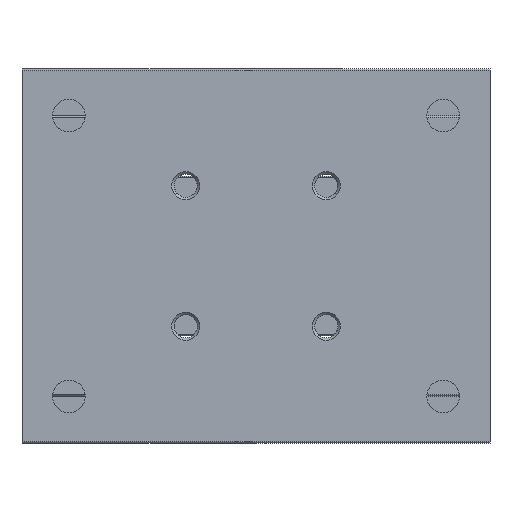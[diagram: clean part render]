
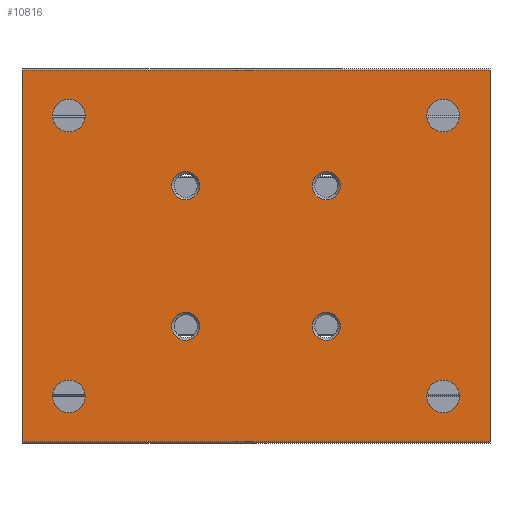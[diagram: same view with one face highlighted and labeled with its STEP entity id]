
A CAD part, front view. The second image highlights one B-rep face of the part: STEP entity #10816.
In plain terms, the highlighted planar face has unit normal (0, -1, 0).
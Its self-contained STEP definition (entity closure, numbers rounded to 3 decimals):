
#358=CIRCLE('',#11456,1.5);
#359=CIRCLE('',#11457,1.5);
#360=CIRCLE('',#11458,1.5);
#361=CIRCLE('',#11459,1.5);
#362=CIRCLE('',#11460,1.75);
#363=CIRCLE('',#11461,1.75);
#364=CIRCLE('',#11462,1.75);
#365=CIRCLE('',#11463,1.75);
#1076=LINE('',#16426,#2086);
#1099=LINE('',#16472,#2109);
#1101=LINE('',#16492,#2111);
#1102=LINE('',#16494,#2112);
#2086=VECTOR('',#12807,1000.);
#2109=VECTOR('',#12836,1000.);
#2111=VECTOR('',#12856,1000.);
#2112=VECTOR('',#12857,1000.);
#3142=ORIENTED_EDGE('',*,*,#6457,.F.);
#3143=ORIENTED_EDGE('',*,*,#6458,.F.);
#3144=ORIENTED_EDGE('',*,*,#6459,.F.);
#3145=ORIENTED_EDGE('',*,*,#6460,.F.);
#3146=ORIENTED_EDGE('',*,*,#6461,.T.);
#3147=ORIENTED_EDGE('',*,*,#6462,.F.);
#3148=ORIENTED_EDGE('',*,*,#6463,.F.);
#3149=ORIENTED_EDGE('',*,*,#6464,.F.);
#3150=ORIENTED_EDGE('',*,*,#6432,.T.);
#3151=ORIENTED_EDGE('',*,*,#6465,.F.);
#3152=ORIENTED_EDGE('',*,*,#6466,.F.);
#3153=ORIENTED_EDGE('',*,*,#6455,.T.);
#6432=EDGE_CURVE('',#8090,#8089,#1076,.T.);
#6455=EDGE_CURVE('',#8110,#8090,#1099,.T.);
#6457=EDGE_CURVE('',#8111,#8111,#358,.T.);
#6458=EDGE_CURVE('',#8112,#8112,#359,.T.);
#6459=EDGE_CURVE('',#8113,#8113,#360,.T.);
#6460=EDGE_CURVE('',#8114,#8114,#361,.T.);
#6461=EDGE_CURVE('',#8115,#8115,#362,.T.);
#6462=EDGE_CURVE('',#8116,#8116,#363,.T.);
#6463=EDGE_CURVE('',#8117,#8117,#364,.T.);
#6464=EDGE_CURVE('',#8118,#8118,#365,.T.);
#6465=EDGE_CURVE('',#8119,#8089,#1101,.T.);
#6466=EDGE_CURVE('',#8110,#8119,#1102,.T.);
#8089=VERTEX_POINT('',#16425);
#8090=VERTEX_POINT('',#16427);
#8110=VERTEX_POINT('',#16473);
#8111=VERTEX_POINT('',#16477);
#8112=VERTEX_POINT('',#16479);
#8113=VERTEX_POINT('',#16481);
#8114=VERTEX_POINT('',#16483);
#8115=VERTEX_POINT('',#16485);
#8116=VERTEX_POINT('',#16487);
#8117=VERTEX_POINT('',#16489);
#8118=VERTEX_POINT('',#16491);
#8119=VERTEX_POINT('',#16493);
#9147=EDGE_LOOP('',(#3142));
#9148=EDGE_LOOP('',(#3143));
#9149=EDGE_LOOP('',(#3144));
#9150=EDGE_LOOP('',(#3145));
#9151=EDGE_LOOP('',(#3146));
#9152=EDGE_LOOP('',(#3147));
#9153=EDGE_LOOP('',(#3148));
#9154=EDGE_LOOP('',(#3149));
#9155=EDGE_LOOP('',(#3150,#3151,#3152,#3153));
#9839=FACE_BOUND('',#9147,.T.);
#9840=FACE_BOUND('',#9148,.T.);
#9841=FACE_BOUND('',#9149,.T.);
#9842=FACE_BOUND('',#9150,.T.);
#9843=FACE_BOUND('',#9151,.T.);
#9844=FACE_BOUND('',#9152,.T.);
#9845=FACE_BOUND('',#9153,.T.);
#9846=FACE_BOUND('',#9154,.T.);
#9847=FACE_BOUND('',#9155,.T.);
#10531=PLANE('',#11455);
#10816=ADVANCED_FACE('',(#9839,#9840,#9841,#9842,#9843,#9844,#9845,#9846,
#9847),#10531,.F.);
#11455=AXIS2_PLACEMENT_3D('',#16475,#12838,#12839);
#11456=AXIS2_PLACEMENT_3D('',#16476,#12840,#12841);
#11457=AXIS2_PLACEMENT_3D('',#16478,#12842,#12843);
#11458=AXIS2_PLACEMENT_3D('',#16480,#12844,#12845);
#11459=AXIS2_PLACEMENT_3D('',#16482,#12846,#12847);
#11460=AXIS2_PLACEMENT_3D('',#16484,#12848,#12849);
#11461=AXIS2_PLACEMENT_3D('',#16486,#12850,#12851);
#11462=AXIS2_PLACEMENT_3D('',#16488,#12852,#12853);
#11463=AXIS2_PLACEMENT_3D('',#16490,#12854,#12855);
#12807=DIRECTION('',(0.,0.,-1.));
#12836=DIRECTION('',(-1.,0.,0.));
#12838=DIRECTION('',(0.,1.,0.));
#12839=DIRECTION('',(0.,0.,1.));
#12840=DIRECTION('',(0.,-1.,0.));
#12841=DIRECTION('',(0.,0.,-1.));
#12842=DIRECTION('',(0.,-1.,0.));
#12843=DIRECTION('',(0.,0.,-1.));
#12844=DIRECTION('',(0.,-1.,0.));
#12845=DIRECTION('',(0.,0.,-1.));
#12846=DIRECTION('',(0.,-1.,0.));
#12847=DIRECTION('',(0.,0.,-1.));
#12848=DIRECTION('',(0.,1.,0.));
#12849=DIRECTION('',(0.,0.,1.));
#12850=DIRECTION('',(0.,-1.,0.));
#12851=DIRECTION('',(0.,0.,-1.));
#12852=DIRECTION('',(0.,-1.,0.));
#12853=DIRECTION('',(0.,0.,-1.));
#12854=DIRECTION('',(0.,-1.,0.));
#12855=DIRECTION('',(0.,0.,-1.));
#12856=DIRECTION('',(-1.,0.,0.));
#12857=DIRECTION('',(0.,0.,-1.));
#16425=CARTESIAN_POINT('',(0.,0.,-19.85));
#16426=CARTESIAN_POINT('',(0.,0.,19.85));
#16427=CARTESIAN_POINT('',(0.,0.,19.85));
#16472=CARTESIAN_POINT('',(50.,0.,19.85));
#16473=CARTESIAN_POINT('',(50.,0.,19.85));
#16475=CARTESIAN_POINT('',(50.,0.,19.85));
#16476=CARTESIAN_POINT('',(32.5,0.,-7.5));
#16477=CARTESIAN_POINT('',(32.5,0.,-9.));
#16478=CARTESIAN_POINT('',(32.5,0.,7.5));
#16479=CARTESIAN_POINT('',(32.5,0.,6.));
#16480=CARTESIAN_POINT('',(17.5,0.,-7.5));
#16481=CARTESIAN_POINT('',(17.5,0.,-9.));
#16482=CARTESIAN_POINT('',(17.5,0.,7.5));
#16483=CARTESIAN_POINT('',(17.5,0.,6.));
#16484=CARTESIAN_POINT('',(45.,0.,15.));
#16485=CARTESIAN_POINT('',(45.,0.,16.75));
#16486=CARTESIAN_POINT('',(45.,0.,-15.));
#16487=CARTESIAN_POINT('',(45.,0.,-16.75));
#16488=CARTESIAN_POINT('',(5.,0.,-15.));
#16489=CARTESIAN_POINT('',(5.,0.,-16.75));
#16490=CARTESIAN_POINT('',(5.,0.,15.));
#16491=CARTESIAN_POINT('',(5.,0.,13.25));
#16492=CARTESIAN_POINT('',(50.,0.,-19.85));
#16493=CARTESIAN_POINT('',(50.,0.,-19.85));
#16494=CARTESIAN_POINT('',(50.,0.,19.85));
